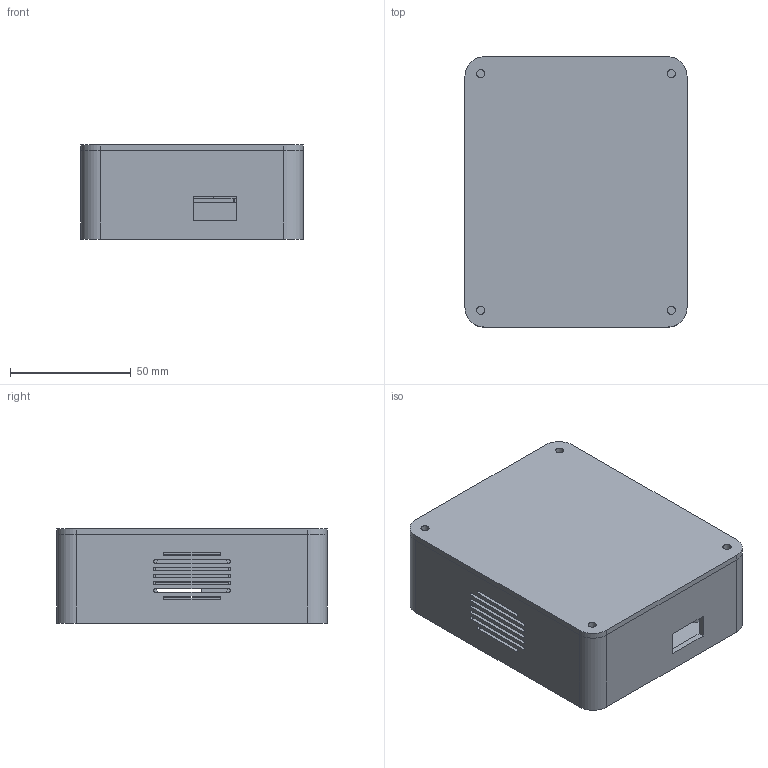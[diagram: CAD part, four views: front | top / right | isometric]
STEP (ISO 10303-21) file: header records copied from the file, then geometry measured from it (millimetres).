
FILE_DESCRIPTION(('Open CASCADE Model'),'2;1');
FILE_NAME('Open CASCADE Shape Model','2026-09-20T16:17:56',('Author'),( 'Open CASCADE'),'Open CASCADE STEP processor 7.9','Open CASCADE 7.9' ,'Unknown');
FILE_SCHEMA(('AUTOMOTIVE_DESIGN { 1 0 10303 214 1 1 1 1 }'));
Length unit declared in the file: millimetre
Products named in the file (5): Lantern_service_case_v03; front_shell; rear_lid; battery_tray; speaker_retainer
Assembly tree (4 placements, depth 2):
  Lantern_service_case_v03
    front_shell
    rear_lid
    battery_tray
    speaker_retainer
Bounding box: 92 x 112 x 39 mm (x, y, z)
Volume: 98767.9 mm3; surface area: 86724 mm2
Topology: 4 solids, 4 shells, 1066 faces, 2916 edges, 1943 vertices
Faces by surface type: plane 555, extrusion 394, cylinder 117
Full cylindrical faces by diameter (mm): 2.1 x10, 2.8 x6, 3.4 x8, 5 x1, 6.4 x4, 6.8 x2, 7.6 x4
Entity records: 78382 total; most frequent: CARTESIAN_POINT 24999, DIRECTION 7667, ORIENTED_EDGE 5832, PCURVE 5832, DEFINITIONAL_REPRESENTATION 5832, VECTOR 5682, LINE 5288, B_SPLINE_CURVE_WITH_KNOTS 3370
